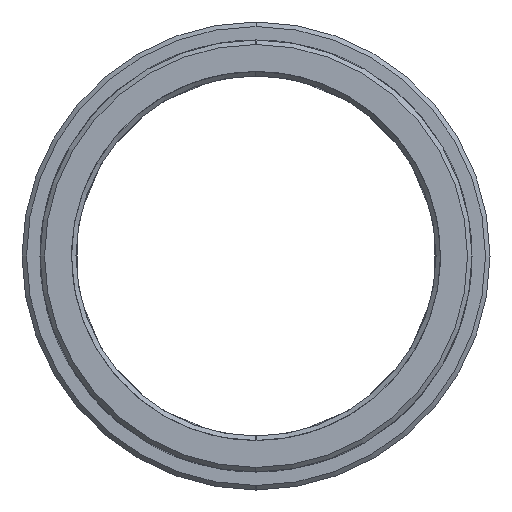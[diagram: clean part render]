
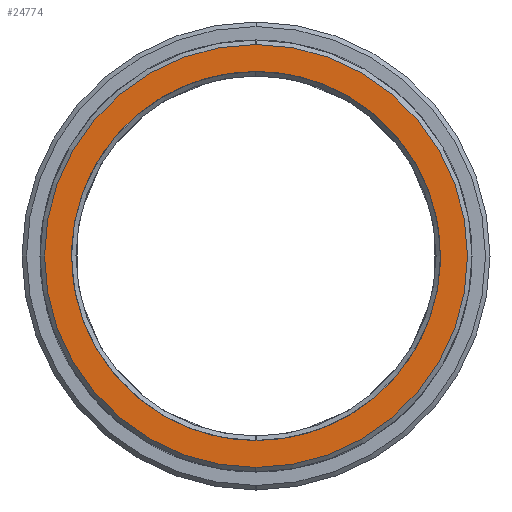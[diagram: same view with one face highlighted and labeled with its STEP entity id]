
A CAD part, left-side view. The second image highlights one B-rep face of the part: STEP entity #24774.
In plain terms, the highlighted planar face has unit normal (1, 0, 0).
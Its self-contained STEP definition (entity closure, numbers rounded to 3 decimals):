
#24691=CARTESIAN_POINT('Axis2P3D Location',(-32.,0.,0.)) ;
#24696=CARTESIAN_POINT('Axis2P3D Location',(-32.,0.,0.)) ;
#24700=CARTESIAN_POINT('Vertex',(-32.,0.,23.5)) ;
#24702=CARTESIAN_POINT('Vertex',(-32.,0.,-23.5)) ;
#24705=CARTESIAN_POINT('Axis2P3D Location',(-32.,0.,0.)) ;
#24715=CARTESIAN_POINT('Control Point',(-32.,0.,20.5)) ;
#24716=CARTESIAN_POINT('Control Point',(-32.,1.996,20.5)) ;
#24717=CARTESIAN_POINT('Control Point',(-32.,3.993,20.257)) ;
#24718=CARTESIAN_POINT('Control Point',(-32.,5.949,19.771)) ;
#24719=CARTESIAN_POINT('Control Point',(-32.,9.705,18.332)) ;
#24720=CARTESIAN_POINT('Control Point',(-32.,13.007,16.035)) ;
#24721=CARTESIAN_POINT('Control Point',(-32.,14.509,14.69)) ;
#24722=CARTESIAN_POINT('Control Point',(-32.,17.155,11.661)) ;
#24723=CARTESIAN_POINT('Control Point',(-32.,18.998,8.086)) ;
#24724=CARTESIAN_POINT('Control Point',(-32.,19.696,6.194)) ;
#24725=CARTESIAN_POINT('Control Point',(-32.,20.617,2.279)) ;
#24726=CARTESIAN_POINT('Control Point',(-32.,20.573,-1.743)) ;
#24727=CARTESIAN_POINT('Control Point',(-32.,20.305,-3.741)) ;
#24728=CARTESIAN_POINT('Control Point',(-32.,19.288,-7.633)) ;
#24729=CARTESIAN_POINT('Control Point',(-32.,17.367,-11.166)) ;
#24730=CARTESIAN_POINT('Control Point',(-32.,16.195,-12.807)) ;
#24731=CARTESIAN_POINT('Control Point',(-32.,13.475,-15.77)) ;
#24732=CARTESIAN_POINT('Control Point',(-32.,10.124,-17.994)) ;
#24733=CARTESIAN_POINT('Control Point',(-32.,8.32,-18.896)) ;
#24734=CARTESIAN_POINT('Control Point',(-32.,5.568,-19.873)) ;
#24735=CARTESIAN_POINT('Control Point',(-32.,2.705,-20.351)) ;
#24736=CARTESIAN_POINT('Control Point',(-32.,1.806,-20.45)) ;
#24737=CARTESIAN_POINT('Control Point',(-32.,0.903,-20.5)) ;
#24738=CARTESIAN_POINT('Control Point',(-32.,0.,-20.5)) ;
#24739=CARTESIAN_POINT('Vertex',(-32.,0.,20.5)) ;
#24741=CARTESIAN_POINT('Vertex',(-32.,0.,-20.5)) ;
#24745=CARTESIAN_POINT('Control Point',(-32.,0.,-20.5)) ;
#24746=CARTESIAN_POINT('Control Point',(-32.,-1.996,-20.5)) ;
#24747=CARTESIAN_POINT('Control Point',(-32.,-3.993,-20.257)) ;
#24748=CARTESIAN_POINT('Control Point',(-32.,-5.949,-19.771)) ;
#24749=CARTESIAN_POINT('Control Point',(-32.,-9.705,-18.332)) ;
#24750=CARTESIAN_POINT('Control Point',(-32.,-13.007,-16.035)) ;
#24751=CARTESIAN_POINT('Control Point',(-32.,-14.509,-14.69)) ;
#24752=CARTESIAN_POINT('Control Point',(-32.,-17.155,-11.661)) ;
#24753=CARTESIAN_POINT('Control Point',(-32.,-18.998,-8.086)) ;
#24754=CARTESIAN_POINT('Control Point',(-32.,-19.696,-6.194)) ;
#24755=CARTESIAN_POINT('Control Point',(-32.,-20.617,-2.279)) ;
#24756=CARTESIAN_POINT('Control Point',(-32.,-20.573,1.743)) ;
#24757=CARTESIAN_POINT('Control Point',(-32.,-20.305,3.741)) ;
#24758=CARTESIAN_POINT('Control Point',(-32.,-19.288,7.633)) ;
#24759=CARTESIAN_POINT('Control Point',(-32.,-17.367,11.166)) ;
#24760=CARTESIAN_POINT('Control Point',(-32.,-16.195,12.807)) ;
#24761=CARTESIAN_POINT('Control Point',(-32.,-13.475,15.77)) ;
#24762=CARTESIAN_POINT('Control Point',(-32.,-10.124,17.994)) ;
#24763=CARTESIAN_POINT('Control Point',(-32.,-8.32,18.896)) ;
#24764=CARTESIAN_POINT('Control Point',(-32.,-5.568,19.873)) ;
#24765=CARTESIAN_POINT('Control Point',(-32.,-2.705,20.351)) ;
#24766=CARTESIAN_POINT('Control Point',(-32.,-1.806,20.45)) ;
#24767=CARTESIAN_POINT('Control Point',(-32.,-0.903,20.5)) ;
#24768=CARTESIAN_POINT('Control Point',(-32.,0.,20.5)) ;
#24692=DIRECTION('Axis2P3D Direction',(1.,0.,0.)) ;
#24693=DIRECTION('Axis2P3D XDirection',(0.,1.,0.)) ;
#24697=DIRECTION('Axis2P3D Direction',(1.,0.,0.)) ;
#24706=DIRECTION('Axis2P3D Direction',(1.,0.,0.)) ;
#24694=AXIS2_PLACEMENT_3D('Plane Axis2P3D',#24691,#24692,#24693) ;
#24698=AXIS2_PLACEMENT_3D('Circle Axis2P3D',#24696,#24697,$) ;
#24707=AXIS2_PLACEMENT_3D('Circle Axis2P3D',#24705,#24706,$) ;
#24711=ORIENTED_EDGE('',*,*,#24704,.T.) ;
#24712=ORIENTED_EDGE('',*,*,#24709,.T.) ;
#24771=ORIENTED_EDGE('',*,*,#24743,.T.) ;
#24772=ORIENTED_EDGE('',*,*,#24769,.T.) ;
#24773=FACE_BOUND('',#24770,.T.) ;
#24774=ADVANCED_FACE('MANIFOLD_SOLID_BREP #14163',(#24713,#24773),#24695,.T.) ;
#24714=B_SPLINE_CURVE_WITH_KNOTS('',5,(#24715,#24716,#24717,#24718,#24719,#24720,#24721,#24722,#24723,#24724,#24725,#24726,#24727,#24728,#24729,#24730,#24731,#24732,#24733,#24734,#24735,#24736,#24737,#24738),.UNSPECIFIED.,.F.,.U.,(6,3,3,3,3,3,3,6),(0.,14.116,28.232,42.347,56.463,70.579,84.695,91.078),.UNSPECIFIED.) ;
#24744=B_SPLINE_CURVE_WITH_KNOTS('',5,(#24745,#24746,#24747,#24748,#24749,#24750,#24751,#24752,#24753,#24754,#24755,#24756,#24757,#24758,#24759,#24760,#24761,#24762,#24763,#24764,#24765,#24766,#24767,#24768),.UNSPECIFIED.,.F.,.U.,(6,3,3,3,3,3,3,6),(0.,14.116,28.232,42.347,56.463,70.579,84.695,91.078),.UNSPECIFIED.) ;
#24699=CIRCLE('generated circle',#24698,23.5) ;
#24708=CIRCLE('generated circle',#24707,23.5) ;
#24704=EDGE_CURVE('',#24701,#24703,#24699,.T.) ;
#24709=EDGE_CURVE('',#24703,#24701,#24708,.T.) ;
#24743=EDGE_CURVE('',#24740,#24742,#24714,.T.) ;
#24769=EDGE_CURVE('',#24742,#24740,#24744,.T.) ;
#24710=EDGE_LOOP('',(#24711,#24712)) ;
#24770=EDGE_LOOP('',(#24771,#24772)) ;
#24713=FACE_OUTER_BOUND('',#24710,.T.) ;
#24695=PLANE('Plane',#24694) ;
#24701=VERTEX_POINT('',#24700) ;
#24703=VERTEX_POINT('',#24702) ;
#24740=VERTEX_POINT('',#24739) ;
#24742=VERTEX_POINT('',#24741) ;
